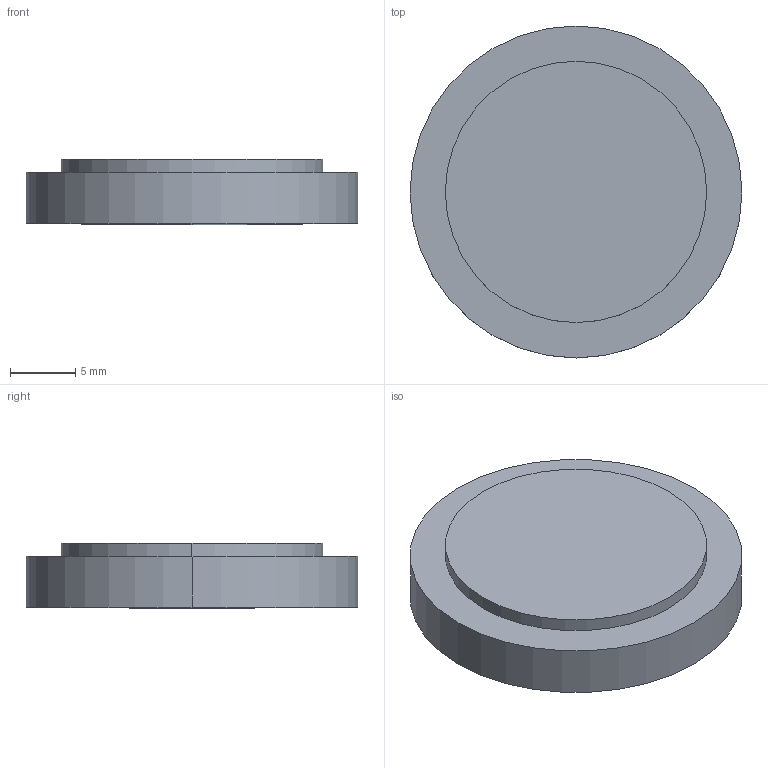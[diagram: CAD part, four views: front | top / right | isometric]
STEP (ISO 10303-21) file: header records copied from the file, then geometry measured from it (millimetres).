
FILE_DESCRIPTION(('STEP AP214'),'1');
FILE_NAME('LLZ-25475.STEP','2020-03-09T17:42:33',(' '),(' '),'Spatial InterOp 3D',' ',' ');
FILE_SCHEMA(('AUTOMOTIVE_DESIGN { 1 0 10303 214 1 1 1 1 }'));
Length unit declared in the file: millimetre
Products named in the file (1): 1
Bounding box: 25.4 x 25.4 x 5 mm (x, y, z)
Volume: 2312.1 mm3; surface area: 2014.7 mm2
Topology: 2 solids, 2 shells, 9 faces, 16 edges, 9 vertices
Faces by surface type: cylinder 4, plane 3, sphere 2
Entity records: 229 total; most frequent: DIRECTION 46, CARTESIAN_POINT 34, ORIENTED_EDGE 28, AXIS2_PLACEMENT_3D 21, EDGE_CURVE 14, CIRCLE 10, ADVANCED_FACE 9, FACE_OUTER_BOUND 9
